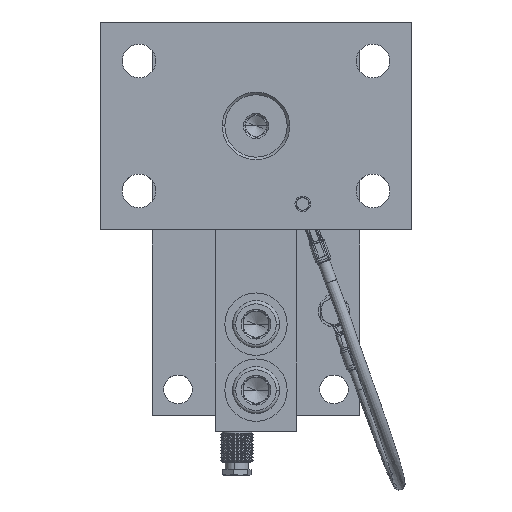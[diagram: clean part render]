
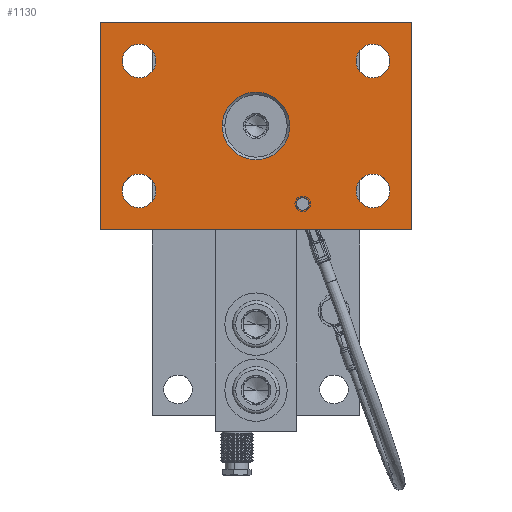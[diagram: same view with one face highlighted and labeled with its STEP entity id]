
A CAD part, top view. The second image highlights one B-rep face of the part: STEP entity #1130.
In plain terms, the highlighted planar face has unit normal (0, 0, 1).
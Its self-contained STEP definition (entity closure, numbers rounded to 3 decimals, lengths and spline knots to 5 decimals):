
#1130=ADVANCED_FACE('226:72',(#1881,#1882,#1883,#1884,#1885,#1886,#1887),#1888,.T.);
#1881=FACE_OUTER_BOUND('',#8752,.T.);
#1882=FACE_BOUND('',#8753,.T.);
#1883=FACE_BOUND('',#8754,.T.);
#1884=FACE_BOUND('',#8755,.T.);
#1885=FACE_BOUND('',#8756,.T.);
#1886=FACE_BOUND('',#8757,.T.);
#1887=FACE_BOUND('',#8758,.T.);
#1888=PLANE('',#8759);
#8752=EDGE_LOOP('',(#10887,#10888,#10889,#10890));
#8753=EDGE_LOOP('',(#10891,#10892));
#8754=EDGE_LOOP('',(#10893,#10894));
#8755=EDGE_LOOP('',(#10895,#10896));
#8756=EDGE_LOOP('',(#10897,#10898));
#8757=EDGE_LOOP('',(#10899,#10900));
#8758=EDGE_LOOP('',(#10901,#10902));
#8759=AXIS2_PLACEMENT_3D('',#10903,#10904,#10905);
#10887=ORIENTED_EDGE('',*,*,#13601,.F.);
#10888=ORIENTED_EDGE('',*,*,#13602,.F.);
#10889=ORIENTED_EDGE('',*,*,#13603,.F.);
#10890=ORIENTED_EDGE('',*,*,#13604,.F.);
#10891=ORIENTED_EDGE('',*,*,#13605,.F.);
#10892=ORIENTED_EDGE('',*,*,#13569,.F.);
#10893=ORIENTED_EDGE('',*,*,#13606,.F.);
#10894=ORIENTED_EDGE('',*,*,#13565,.F.);
#10895=ORIENTED_EDGE('',*,*,#13607,.F.);
#10896=ORIENTED_EDGE('',*,*,#13573,.F.);
#10897=ORIENTED_EDGE('',*,*,#13608,.F.);
#10898=ORIENTED_EDGE('',*,*,#13577,.F.);
#10899=ORIENTED_EDGE('',*,*,#13583,.T.);
#10900=ORIENTED_EDGE('',*,*,#13609,.T.);
#10901=ORIENTED_EDGE('',*,*,#13599,.F.);
#10902=ORIENTED_EDGE('',*,*,#13600,.F.);
#10903=CARTESIAN_POINT('',(0.0,0.0,0.043));
#10904=DIRECTION('',(0.0,0.0,1.0));
#10905=DIRECTION('',(1.0,0.0,0.0));
#13565=EDGE_CURVE('226:93',#15030,#15033,#15034,.T.);
#13569=EDGE_CURVE('226:90',#15038,#15041,#15042,.T.);
#13573=EDGE_CURVE('226:96',#15046,#15049,#15050,.T.);
#13577=EDGE_CURVE('226:99',#15054,#15057,#15058,.T.);
#13583=EDGE_CURVE('227:323',#15063,#15067,#15069,.T.);
#13599=EDGE_CURVE('232:1512',#15097,#15094,#15099,.T.);
#13600=EDGE_CURVE('232:1512',#15094,#15097,#15100,.T.);
#13601=EDGE_CURVE('223:1618',#15101,#15102,#15103,.T.);
#13602=EDGE_CURVE('223:1648',#15104,#15101,#15105,.T.);
#13603=EDGE_CURVE('223:1639',#15106,#15104,#15107,.T.);
#13604=EDGE_CURVE('223:1630',#15102,#15106,#15108,.T.);
#13605=EDGE_CURVE('226:90',#15041,#15038,#15109,.T.);
#13606=EDGE_CURVE('226:93',#15033,#15030,#15110,.T.);
#13607=EDGE_CURVE('226:96',#15049,#15046,#15111,.T.);
#13608=EDGE_CURVE('226:99',#15057,#15054,#15112,.T.);
#13609=EDGE_CURVE('227:323',#15067,#15063,#15113,.T.);
#15030=VERTEX_POINT('',#18255);
#15033=VERTEX_POINT('',#18259);
#15034=CIRCLE('',#18260,0.0065);
#15038=VERTEX_POINT('',#18265);
#15041=VERTEX_POINT('',#18269);
#15042=CIRCLE('',#18270,0.0065);
#15046=VERTEX_POINT('',#18275);
#15049=VERTEX_POINT('',#18279);
#15050=CIRCLE('',#18280,0.0065);
#15054=VERTEX_POINT('',#18285);
#15057=VERTEX_POINT('',#18289);
#15058=CIRCLE('',#18290,0.0065);
#15063=VERTEX_POINT('',#18296);
#15067=VERTEX_POINT('',#18301);
#15069=CIRCLE('',#18304,0.0025);
#15094=VERTEX_POINT('',#18335);
#15097=VERTEX_POINT('',#18339);
#15099=CIRCLE('',#18342,0.013);
#15100=CIRCLE('',#18343,0.013);
#15101=VERTEX_POINT('',#18344);
#15102=VERTEX_POINT('',#18345);
#15103=LINE('',#18346,#18347);
#15104=VERTEX_POINT('',#18348);
#15105=LINE('',#18349,#18350);
#15106=VERTEX_POINT('',#18351);
#15107=LINE('',#18352,#18353);
#15108=LINE('',#18354,#18355);
#15109=CIRCLE('',#18356,0.0065);
#15110=CIRCLE('',#18357,0.0065);
#15111=CIRCLE('',#18358,0.0065);
#15112=CIRCLE('',#18359,0.0065);
#15113=CIRCLE('',#18360,0.0025);
#18255=CARTESIAN_POINT('',(-0.0515,0.025,0.043));
#18259=CARTESIAN_POINT('',(-0.0385,0.025,0.043));
#18260=AXIS2_PLACEMENT_3D('',#20630,#20631,#20632);
#18265=CARTESIAN_POINT('',(-0.0515,-0.025,0.043));
#18269=CARTESIAN_POINT('',(-0.0385,-0.025,0.043));
#18270=AXIS2_PLACEMENT_3D('',#20638,#20639,#20640);
#18275=CARTESIAN_POINT('',(0.0385,-0.025,0.043));
#18279=CARTESIAN_POINT('',(0.0515,-0.025,0.043));
#18280=AXIS2_PLACEMENT_3D('',#20646,#20647,#20648);
#18285=CARTESIAN_POINT('',(0.0385,0.025,0.043));
#18289=CARTESIAN_POINT('',(0.0515,0.025,0.043));
#18290=AXIS2_PLACEMENT_3D('',#20654,#20655,#20656);
#18296=CARTESIAN_POINT('',(0.0155,-0.03,0.043));
#18301=CARTESIAN_POINT('',(0.0205,-0.03,0.043));
#18304=AXIS2_PLACEMENT_3D('',#20666,#20667,#20668);
#18335=CARTESIAN_POINT('',(-0.013,0.,0.043));
#18339=CARTESIAN_POINT('',(0.013,0.,0.043));
#18342=AXIS2_PLACEMENT_3D('',#20698,#20699,#20700);
#18343=AXIS2_PLACEMENT_3D('',#20701,#20702,#20703);
#18344=CARTESIAN_POINT('',(-0.06,0.04,0.043));
#18345=CARTESIAN_POINT('',(0.06,0.04,0.043));
#18346=CARTESIAN_POINT('',(-0.06,0.04,0.043));
#18347=VECTOR('',#20704,1.0);
#18348=CARTESIAN_POINT('',(-0.06,-0.04,0.043));
#18349=CARTESIAN_POINT('',(-0.06,-0.04,0.043));
#18350=VECTOR('',#20705,1.0);
#18351=CARTESIAN_POINT('',(0.06,-0.04,0.043));
#18352=CARTESIAN_POINT('',(0.06,-0.04,0.043));
#18353=VECTOR('',#20706,1.0);
#18354=CARTESIAN_POINT('',(0.06,0.04,0.043));
#18355=VECTOR('',#20707,1.0);
#18356=AXIS2_PLACEMENT_3D('',#20708,#20709,#20710);
#18357=AXIS2_PLACEMENT_3D('',#20711,#20712,#20713);
#18358=AXIS2_PLACEMENT_3D('',#20714,#20715,#20716);
#18359=AXIS2_PLACEMENT_3D('',#20717,#20718,#20719);
#18360=AXIS2_PLACEMENT_3D('',#20720,#20721,#20722);
#20630=CARTESIAN_POINT('',(-0.045,0.025,0.043));
#20631=DIRECTION('',(0.0,0.0,1.0));
#20632=DIRECTION('',(1.0,0.0,0.0));
#20638=CARTESIAN_POINT('',(-0.045,-0.025,0.043));
#20639=DIRECTION('',(0.0,0.0,1.0));
#20640=DIRECTION('',(1.0,0.0,0.0));
#20646=CARTESIAN_POINT('',(0.045,-0.025,0.043));
#20647=DIRECTION('',(0.0,0.0,1.0));
#20648=DIRECTION('',(1.0,0.0,0.0));
#20654=CARTESIAN_POINT('',(0.045,0.025,0.043));
#20655=DIRECTION('',(0.0,0.0,1.0));
#20656=DIRECTION('',(1.0,0.0,0.0));
#20666=CARTESIAN_POINT('',(0.018,-0.03,0.043));
#20667=DIRECTION('',(-0.0,0.0,-1.0));
#20668=DIRECTION('',(-1.0,0.0,0.0));
#20698=CARTESIAN_POINT('',(0.,0.0,0.043));
#20699=DIRECTION('',(0.0,0.0,1.0));
#20700=DIRECTION('',(-1.0,0.0,0.0));
#20701=CARTESIAN_POINT('',(0.,0.0,0.043));
#20702=DIRECTION('',(0.0,0.0,1.0));
#20703=DIRECTION('',(-1.0,0.0,0.0));
#20704=DIRECTION('',(1.0,0.0,0.0));
#20705=DIRECTION('',(0.0,1.0,0.0));
#20706=DIRECTION('',(-1.0,0.0,0.0));
#20707=DIRECTION('',(0.0,-1.0,0.0));
#20708=CARTESIAN_POINT('',(-0.045,-0.025,0.043));
#20709=DIRECTION('',(0.0,0.0,1.0));
#20710=DIRECTION('',(1.0,0.0,0.0));
#20711=CARTESIAN_POINT('',(-0.045,0.025,0.043));
#20712=DIRECTION('',(0.0,0.0,1.0));
#20713=DIRECTION('',(1.0,0.0,0.0));
#20714=CARTESIAN_POINT('',(0.045,-0.025,0.043));
#20715=DIRECTION('',(0.0,0.0,1.0));
#20716=DIRECTION('',(1.0,0.0,0.0));
#20717=CARTESIAN_POINT('',(0.045,0.025,0.043));
#20718=DIRECTION('',(0.0,0.0,1.0));
#20719=DIRECTION('',(1.0,0.0,0.0));
#20720=CARTESIAN_POINT('',(0.018,-0.03,0.043));
#20721=DIRECTION('',(-0.0,0.0,-1.0));
#20722=DIRECTION('',(-1.0,0.0,0.0));
